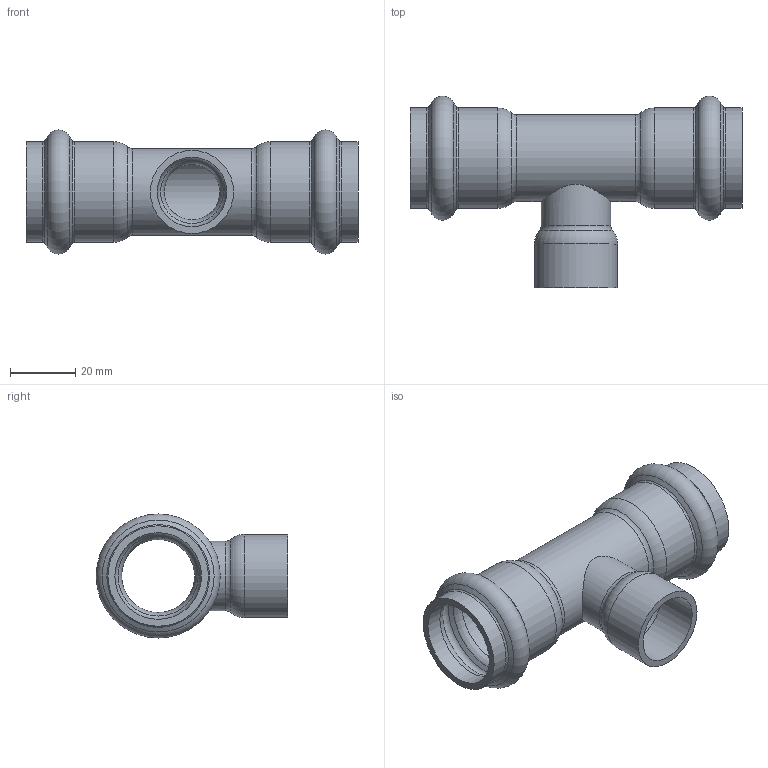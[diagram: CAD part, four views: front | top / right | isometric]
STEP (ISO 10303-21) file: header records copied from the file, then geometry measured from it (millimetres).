
FILE_DESCRIPTION(/* description */ ('VIC TEE RED. BRANCH STYLE P588 (P x P x F)','CAx-IF Rec.Pracs.---Representation and Presentation of Product Manufacturing Information (PMI)---4.0---2014-10-13'),/* implementation_level */ '2;1');
FILE_NAME(/* name */ 'C:\Users\Vjadhav\AppData\Roaming\Autodesk\ApplicationPlugins\Back Up\Victaulic_SS-Vic-Press-TP 304_Tee Threaded_Style P588 (VPxFPT)\Victaulic_SS-Vic-Press-TP 304_Tee Threaded_Style P588 (VPxFPT)_0.75x0.50 (20x15).stp',/* time_stamp */ '2020-08-12T18:49:35+05:00',/* author */ ('cgray'),/* organization */ ('Victaulic'),/* preprocessor_version */ 'ST-DEVELOPER v17.2',/* originating_system */ 'Autodesk Inventor 2019',/* authorisation */ '');
FILE_SCHEMA (('AP242_MANAGED_MODEL_BASED_3D_ENGINEERING_MIM_LF { 1 0 10303 442 1 1 4 }'));
Length unit declared in the file: inch
Products named in the file (1): P588-0.75x0.5
Bounding box: 102.11 x 58.95 x 38.15 mm (x, y, z)
Volume: 23967.7 mm3; surface area: 23262.3 mm2
Topology: 1 solids, 1 shells, 49 faces, 184 edges, 136 vertices
Faces by surface type: torus 24, cylinder 14, cone 8, plane 3
Full cylindrical faces by diameter (mm): 17.12 x1, 21.336 x2, 22.454 x1, 25.552 x1, 26.67 x5, 30.886 x4
Entity records: 2379 total; most frequent: CARTESIAN_POINT 483, DIRECTION 454, ORIENTED_EDGE 368, AXIS2_PLACEMENT_3D 215, EDGE_CURVE 184, CIRCLE 152, VERTEX_POINT 136, EDGE_LOOP 52
